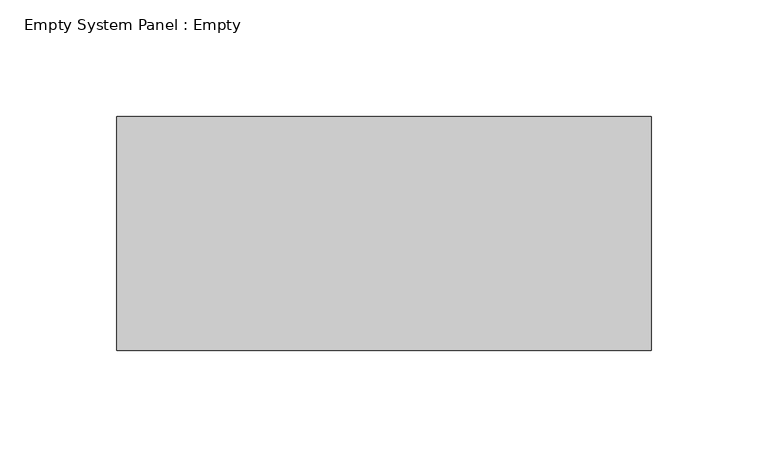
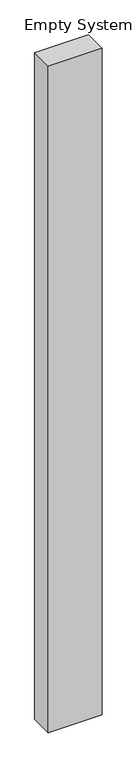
"""IFC4 building model written with IfcOpenShell, lengths in millimetres: plate geometry, Empty System Panel : Empty."""

from ifc_helpers import new_model, si_unit, origin, origin_with_axes, place, context, project, spatial, polyline, outline, extrude, source, transform, mapped, element, save


def empty_system_panel_empty_666dd941(model_context):
    return source(origin(), model_context, "Body", "SweptSolid", [
        extrude(outline(polyline([(114.125, -50.0), (-114.125, -50.0), (-114.125, 50.0), (114.125, 50.0), (114.125, -50.0)])), origin_with_axes(), (0.0, 0.0, 1.0), 3000.0),
    ])


if __name__ == "__main__":
    model = new_model("IFC4")
    model_context = context("Model", 3, world=origin())
    ifc_project = project(units=[si_unit("LENGTHUNIT", "METRE", prefix="MILLI")], contexts=[model_context])
    site = spatial("IfcSite", under=ifc_project)
    building = spatial("IfcBuilding", under=site)
    placement = place(None, origin())
    empty_system_panel_empty_shape = empty_system_panel_empty_666dd941(model_context)
    element("IfcPlate", 1, ObjectType="Empty System Panel : Empty", at=placement, inside=building, context=model_context, shape_type="MappedRepresentation", body=[
        mapped(empty_system_panel_empty_shape, transform((0.0, 0.0, 0.0), x_axis=(1.0, 0.0, 0.0), y_axis=(0.0, 1.0, 0.0), z_axis=(0.0, 0.0, 1.0))),
    ])
    save(model, "model.ifc")
